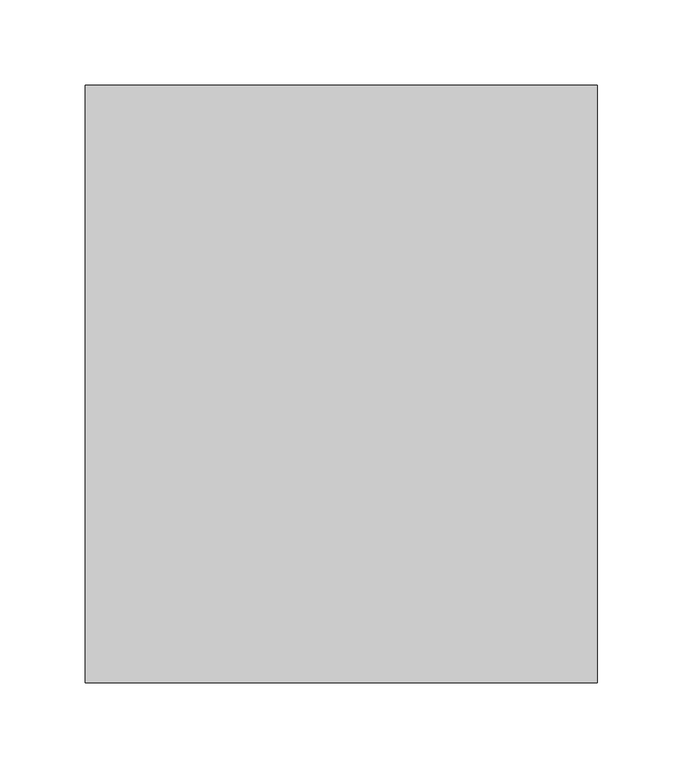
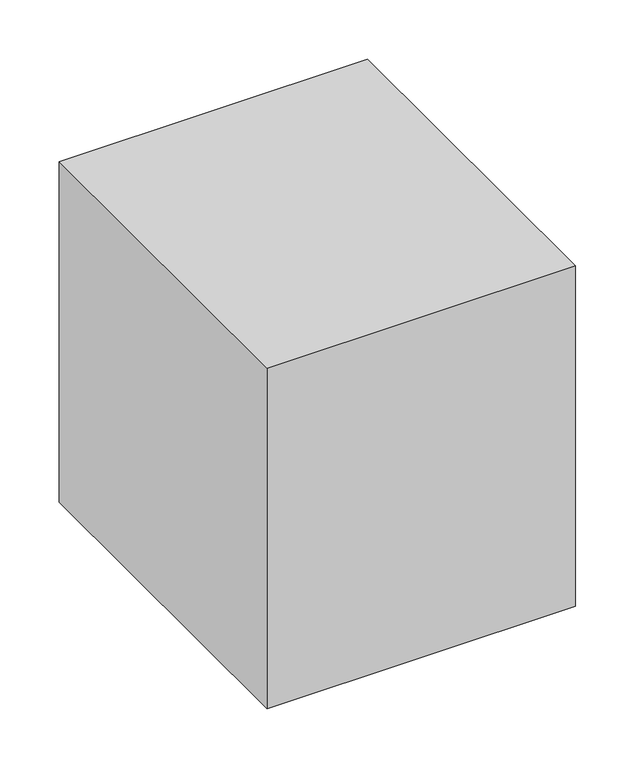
"""IFC4 building model written with IfcOpenShell, lengths in millimetres: proxy geometry, 制気口ボックス : 制気口ボックス."""

from ifc_helpers import new_model, si_unit, frame, origin, place, context, project, spatial, polyline, outline, extrude, source, transform, mapped, element, save


def mechanical_equipment_321b7d68(model_context):
    return source(origin(), model_context, "Body", "SweptSolid", [
        extrude(outline(polyline([(150.0, 175.0), (150.0, -175.0), (-150.0, -175.0), (-150.0, 175.0), (150.0, 175.0)])), frame((0.0, 0.0, -175.0), z_axis=(0.0, 0.0, 1.0), x_axis=(1.0, 0.0, 0.0)), (0.0, 0.0, 1.0), 350.0),
    ])


if __name__ == "__main__":
    model = new_model("IFC4")
    model_context = context("Model", 3, world=origin())
    ifc_project = project(units=[si_unit("LENGTHUNIT", "METRE", prefix="MILLI")], contexts=[model_context])
    site = spatial("IfcSite", under=ifc_project)
    building = spatial("IfcBuilding", under=site)
    placement = place(None, origin())
    mechanical_equipment_shape = mechanical_equipment_321b7d68(model_context)
    element("IfcBuildingElementProxy", 1, Name="制気口ボックス : 制気口ボックス", ObjectType="制気口ボックス : 制気口ボックス", at=placement, inside=building, context=model_context, shape_type="MappedRepresentation", body=[
        mapped(mechanical_equipment_shape, transform((0.0, 0.0, 0.0), x_axis=(1.0, 0.0, 0.0), y_axis=(0.0, 1.0, 0.0), z_axis=(0.0, 0.0, 1.0))),
    ])
    save(model, "model.ifc")
